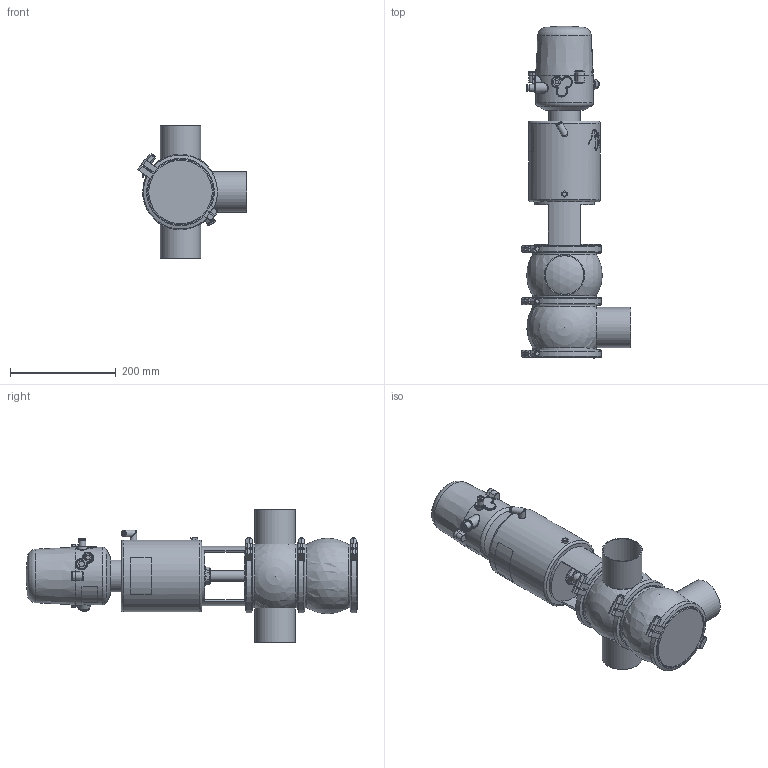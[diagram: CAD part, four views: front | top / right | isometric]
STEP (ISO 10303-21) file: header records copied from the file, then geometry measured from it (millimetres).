
FILE_DESCRIPTION (( 'STEP AP214' ), '1' );
FILE_NAME ('INNOVA M A W OD 3 T3 AS NC & C-TOP S_10.241.16.0037.STEP', '2024-08-07T07:03:45', ( '' ), ( '' ), 'SwSTEP 2.0', 'SolidWorks 2023', '' );
FILE_SCHEMA (( 'AUTOMOTIVE_DESIGN' ));
Length unit declared in the file: millimetre
Products named in the file (9): 10.240.15.0014_T3 AS P180; 10.240.15.0007_OD 3"; 10.240.15.0006_OD 3"; 10.240.15.0017_Estàndard; 10.240.15.0001_DN 080; 10.240.15.0010_DN 080; INNOVA M A W OD 3 T3 AS NC & C-TOP S_10.241.16.0037; 10.426.15.0001_C-TOP S - 1 EV; 10.241.15.0001_DIN 080
Assembly tree (10 placements, depth 2):
  INNOVA M A W OD 3 T3 AS NC & C-TOP S_10.241.16.0037
    10.240.15.0007_OD 3"
    10.240.15.0006_OD 3"
    10.240.15.0010_DN 080
    10.240.15.0014_T3 AS P180
    10.240.15.0017_Estàndard
    10.426.15.0001_C-TOP S - 1 EV
    10.240.15.0001_DN 080  x3
    10.241.15.0001_DIN 080
Bounding box: 206.43 x 627.63 x 250 mm (x, y, z)
Volume: 6941204.5 mm3; surface area: 597119.6 mm2
Topology: 11 solids, 11 shells, 1238 faces, 3004 edges, 1996 vertices
Faces by surface type: plane 443, cylinder 379, cone 211, bspline 160, torus 36, sphere 9
Full cylindrical faces by diameter (mm): 0.371 x17, 0.512 x16, 0.658 x16, 0.795 x16, 0.94 x15, 1.098 x15, 1.241 x13, 1.382 x13, 1.523 x11, 1.669 x10, 2.201 x1, 4 x2, 5.5 x2, 6 x2, 6.15 x1, 8 x8, 8.5 x1, 10 x1, 10.5 x1, 11 x2, 12.5 x3, 13 x2, 13.5 x2, 16 x1, 17 x3, 20 x3, 20.5 x1, 22 x2, 31 x1, 34.5 x3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
Entity records: 58105 total; most frequent: CARTESIAN_POINT 27773, ORIENTED_EDGE 4516, DIRECTION 3673, EDGE_CURVE 2258, VERTEX_POINT 1609, EDGE_LOOP 1579, AXIS2_PLACEMENT_3D 1508, FACE_OUTER_BOUND 1339
